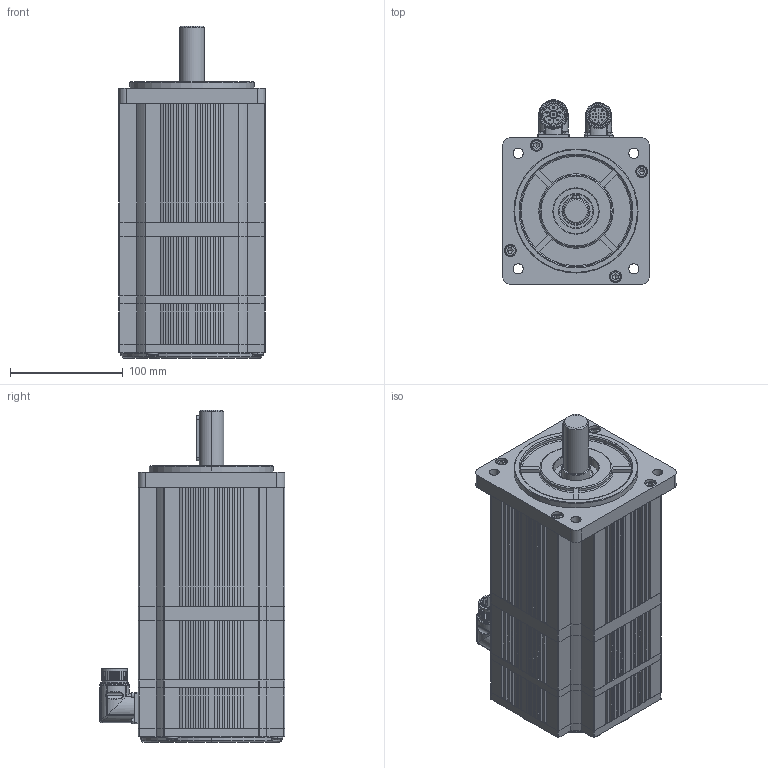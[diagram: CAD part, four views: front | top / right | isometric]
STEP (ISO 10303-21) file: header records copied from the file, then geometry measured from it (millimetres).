
FILE_DESCRIPTION (( 'STEP AP214' ), '1' );
FILE_NAME ('SMC130D-0200-20MBK-5LSP.STEP', '2022-09-14T06:02:11', ( '' ), ( '' ), 'SwSTEP 2.0', 'SolidWorks 2018', '' );
FILE_SCHEMA (( 'AUTOMOTIVE_DESIGN' ));
Length unit declared in the file: millimetre
Products named in the file (14): 价陬裔啣; 綴傷裔; ヶ傷裔; 郋弊莉陓瘍菁釱; 郋弊莉萇埭菁釱; 价陬欶; 儂褲; 鎢攫欶綴裔; SMC130D-0200-20MBK-5LSP; 鎢攫欶褲极; hexagon socket head cap screws gb_GB_FASTENER_SCREWS_HSHCS M6X55-N; hexagon socket head cap screws gb_GB_FASTENER_SCREWS_HSHCS M2.5X8-N; ぱ籵A倰瑩; hexagon socket head cap screws gb_GB_FASTENER_SCREWS_HSHCS M6X20-N
Assembly tree (26 placements, depth 2):
  SMC130D-0200-20MBK-5LSP
    ヶ傷裔
    儂褲
    綴傷裔
    鎢攫欶褲极
    鎢攫欶綴裔
    郋弊莉萇埭菁釱
    郋弊莉陓瘍菁釱
    hexagon socket head cap screws gb_GB_FASTENER_SCREWS_HSHCS M2.5X8-N  x8
    hexagon socket head cap screws gb_GB_FASTENER_SCREWS_HSHCS M6X55-N  x4
    ぱ籵A倰瑩
    hexagon socket head cap screws gb_GB_FASTENER_SCREWS_HSHCS M6X20-N  x4
    价陬欶
    价陬裔啣
Bounding box: 130 x 164.5 x 294.5 mm (x, y, z)
Volume: 3597187.6 mm3; surface area: 439534.4 mm2
Topology: 50 solids, 50 shells, 2087 faces, 5371 edges, 3423 vertices
Faces by surface type: plane 978, cylinder 870, cone 90, torus 90, sphere 46, bspline 13
Entity records: 67172 total; most frequent: CARTESIAN_POINT 11767, DIRECTION 9719, ORIENTED_EDGE 9058, EDGE_CURVE 4529, AXIS2_PLACEMENT_3D 3560, VERTEX_POINT 2948, VECTOR 2599, LINE 2599
